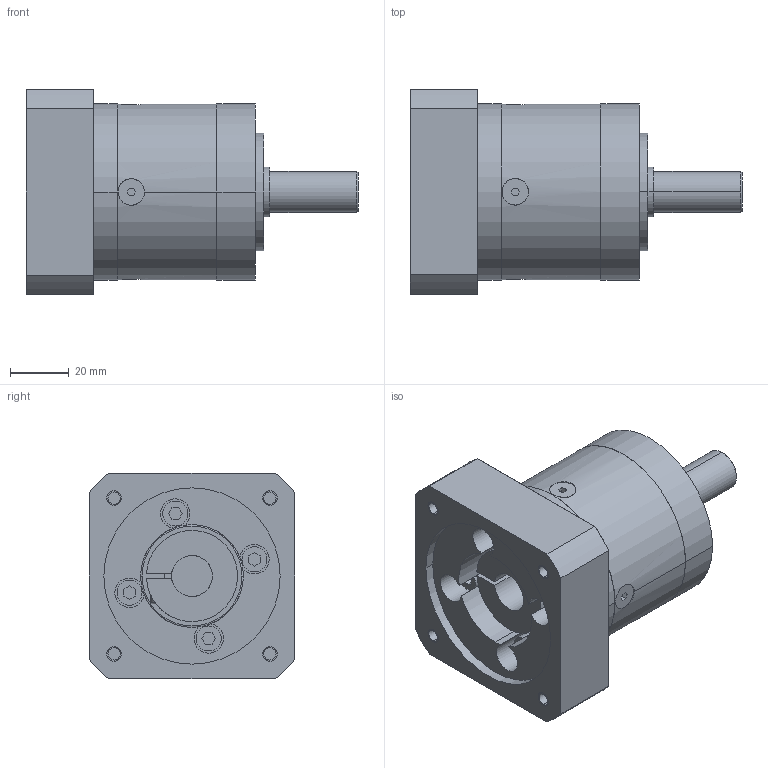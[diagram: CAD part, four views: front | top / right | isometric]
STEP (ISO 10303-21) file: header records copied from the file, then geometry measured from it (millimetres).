
FILE_DESCRIPTION((''),'2;1');
FILE_NAME('MB_PLE_MASTER','2019-07-12T',('agw'),(''),'CREO PARAMETRIC BY PTC INC, 2015290','CREO PARAMETRIC BY PTC INC, 2015290','');
FILE_SCHEMA(('AUTOMOTIVE_DESIGN { 1 0 10303 214 1 1 1 1 }'));
Length unit declared in the file: millimetre
Products named in the file (1): MB_PLE_MASTER
Bounding box: 113 x 70 x 70 mm (x, y, z)
Volume: 248086.6 mm3; surface area: 38242.7 mm2
Topology: 1 solids, 9 shells, 213 faces, 503 edges, 332 vertices
Faces by surface type: plane 121, cylinder 82, cone 6, torus 4
Entity records: 7056 total; most frequent: CARTESIAN_POINT 1243, DIRECTION 1105, ORIENTED_EDGE 974, EDGE_CURVE 503, AXIS2_PLACEMENT_3D 405, VERTEX_POINT 332, VECTOR 295, LINE 295
